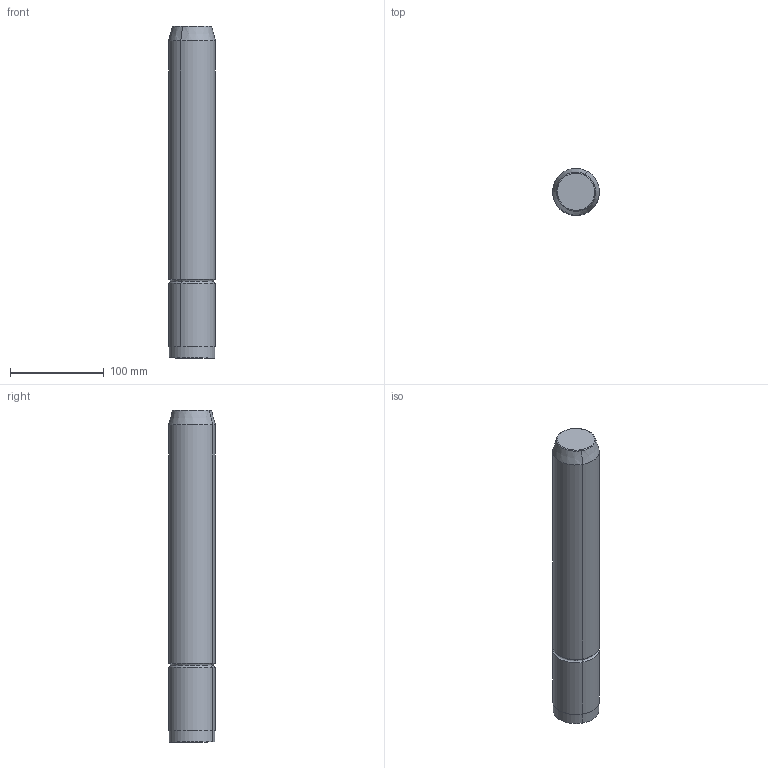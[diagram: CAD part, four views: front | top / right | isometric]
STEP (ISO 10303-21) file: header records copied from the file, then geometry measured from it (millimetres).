
FILE_DESCRIPTION(('CATIA V5 STEP Exchange'),'2;1');
FILE_NAME('C:\Users\Utente\Desktop\IO LAVORO\3D X SITO CF\X SITO\M104\M104-50x355.stp','2020-12-26T21:23:11+00:00',('none'),('none'),'CATIA Version 5 Release 20 GA (IN-10)','CATIA V5 STEP AP203','none');
FILE_SCHEMA(('CONFIG_CONTROL_DESIGN'));
Length unit declared in the file: millimetre
Products named in the file (1): M104-50x355
Bounding box: 49.99 x 49.99 x 355 mm (x, y, z)
Volume: 689964.4 mm3; surface area: 59193.9 mm2
Topology: 1 solids, 1 shells, 17 faces, 32 edges, 18 vertices
Faces by surface type: cylinder 6, torus 6, plane 3, cone 2
Entity records: 438 total; most frequent: CARTESIAN_POINT 66, ORIENTED_EDGE 64, DIRECTION 62, AXIS2_PLACEMENT_3D 40, EDGE_CURVE 32, CIRCLE 24, EDGE_LOOP 18, VERTEX_POINT 18
